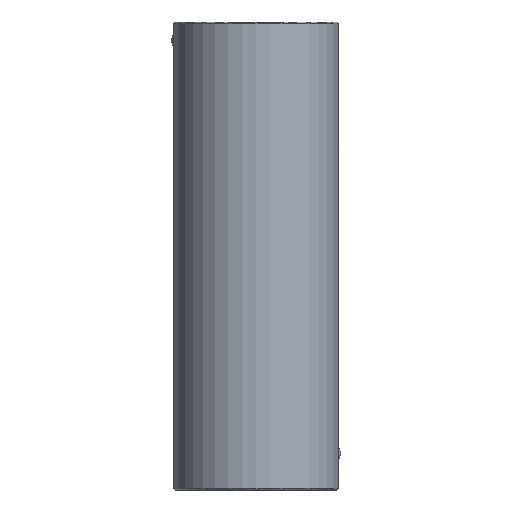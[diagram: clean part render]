
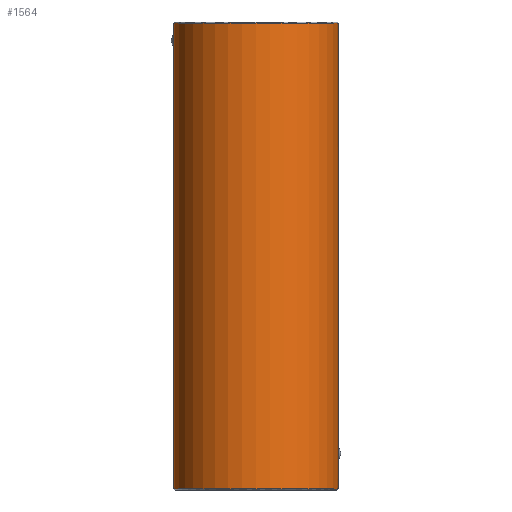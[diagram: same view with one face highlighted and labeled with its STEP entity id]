
A CAD part, front view. The second image highlights one B-rep face of the part: STEP entity #1564.
In plain terms, the highlighted cylindrical face has radius 18.5 mm (diameter 37 mm), a partial arc.
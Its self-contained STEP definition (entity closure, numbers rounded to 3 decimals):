
#1346=CARTESIAN_POINT('Vertex',(-18.5,0.,0.3)) ;
#1353=CARTESIAN_POINT('Vertex',(18.5,0.,0.3)) ;
#1356=CARTESIAN_POINT('Axis2P3D Location',(0.,0.,0.3)) ;
#1474=CARTESIAN_POINT('Axis2P3D Location',(0.,0.,105.)) ;
#1479=CARTESIAN_POINT('Line Origine',(18.5,0.,105.)) ;
#1483=CARTESIAN_POINT('Vertex',(18.5,0.,6.877)) ;
#1487=CARTESIAN_POINT('Control Point',(18.449,-1.379,8.201)) ;
#1488=CARTESIAN_POINT('Control Point',(18.449,-1.379,7.776)) ;
#1489=CARTESIAN_POINT('Control Point',(18.462,-1.201,7.352)) ;
#1490=CARTESIAN_POINT('Control Point',(18.488,-0.85,7.033)) ;
#1491=CARTESIAN_POINT('Control Point',(18.5,-0.425,6.877)) ;
#1492=CARTESIAN_POINT('Control Point',(18.5,0.,6.877)) ;
#1493=CARTESIAN_POINT('Vertex',(18.449,-1.379,8.201)) ;
#1497=CARTESIAN_POINT('Control Point',(18.5,0.,9.523)) ;
#1498=CARTESIAN_POINT('Control Point',(18.5,-0.425,9.523)) ;
#1499=CARTESIAN_POINT('Control Point',(18.488,-0.845,9.368)) ;
#1500=CARTESIAN_POINT('Control Point',(18.462,-1.201,9.052)) ;
#1501=CARTESIAN_POINT('Control Point',(18.449,-1.379,8.625)) ;
#1502=CARTESIAN_POINT('Control Point',(18.449,-1.379,8.201)) ;
#1503=CARTESIAN_POINT('Vertex',(18.5,0.,9.523)) ;
#1506=CARTESIAN_POINT('Line Origine',(18.5,0.,105.)) ;
#1510=CARTESIAN_POINT('Vertex',(18.5,0.,104.7)) ;
#1513=CARTESIAN_POINT('Axis2P3D Location',(0.,0.,104.7)) ;
#1517=CARTESIAN_POINT('Vertex',(-18.5,0.,104.7)) ;
#1520=CARTESIAN_POINT('Line Origine',(-18.5,0.,105.)) ;
#1524=CARTESIAN_POINT('Vertex',(-18.5,0.,102.223)) ;
#1528=CARTESIAN_POINT('Control Point',(-18.449,-1.379,100.899)) ;
#1529=CARTESIAN_POINT('Control Point',(-18.449,-1.379,101.324)) ;
#1530=CARTESIAN_POINT('Control Point',(-18.462,-1.201,101.748)) ;
#1531=CARTESIAN_POINT('Control Point',(-18.488,-0.85,102.067)) ;
#1532=CARTESIAN_POINT('Control Point',(-18.5,-0.425,102.223)) ;
#1533=CARTESIAN_POINT('Control Point',(-18.5,0.,102.223)) ;
#1534=CARTESIAN_POINT('Vertex',(-18.449,-1.379,100.899)) ;
#1538=CARTESIAN_POINT('Control Point',(-18.5,0.,99.577)) ;
#1539=CARTESIAN_POINT('Control Point',(-18.5,-0.425,99.577)) ;
#1540=CARTESIAN_POINT('Control Point',(-18.488,-0.845,99.732)) ;
#1541=CARTESIAN_POINT('Control Point',(-18.462,-1.201,100.048)) ;
#1542=CARTESIAN_POINT('Control Point',(-18.449,-1.379,100.475)) ;
#1543=CARTESIAN_POINT('Control Point',(-18.449,-1.379,100.899)) ;
#1544=CARTESIAN_POINT('Vertex',(-18.5,0.,99.577)) ;
#1547=CARTESIAN_POINT('Line Origine',(-18.5,0.,105.)) ;
#1357=DIRECTION('Axis2P3D Direction',(0.,-0.,1.)) ;
#1475=DIRECTION('Axis2P3D Direction',(0.,0.,-1.)) ;
#1476=DIRECTION('Axis2P3D XDirection',(1.,0.,0.)) ;
#1480=DIRECTION('Vector Direction',(0.,0.,-1.)) ;
#1507=DIRECTION('Vector Direction',(0.,0.,-1.)) ;
#1514=DIRECTION('Axis2P3D Direction',(0.,0.,-1.)) ;
#1521=DIRECTION('Vector Direction',(0.,0.,-1.)) ;
#1548=DIRECTION('Vector Direction',(0.,0.,-1.)) ;
#1358=AXIS2_PLACEMENT_3D('Circle Axis2P3D',#1356,#1357,$) ;
#1477=AXIS2_PLACEMENT_3D('Cylinder Axis2P3D',#1474,#1475,#1476) ;
#1515=AXIS2_PLACEMENT_3D('Circle Axis2P3D',#1513,#1514,$) ;
#1553=ORIENTED_EDGE('',*,*,#1485,.T.) ;
#1554=ORIENTED_EDGE('',*,*,#1495,.F.) ;
#1555=ORIENTED_EDGE('',*,*,#1505,.F.) ;
#1556=ORIENTED_EDGE('',*,*,#1512,.T.) ;
#1557=ORIENTED_EDGE('',*,*,#1519,.F.) ;
#1558=ORIENTED_EDGE('',*,*,#1526,.T.) ;
#1559=ORIENTED_EDGE('',*,*,#1536,.F.) ;
#1560=ORIENTED_EDGE('',*,*,#1546,.F.) ;
#1561=ORIENTED_EDGE('',*,*,#1551,.T.) ;
#1562=ORIENTED_EDGE('',*,*,#1360,.T.) ;
#1481=VECTOR('Line Direction',#1480,1.) ;
#1508=VECTOR('Line Direction',#1507,1.) ;
#1522=VECTOR('Line Direction',#1521,1.) ;
#1549=VECTOR('Line Direction',#1548,1.) ;
#1564=ADVANCED_FACE('730-30x105',(#1563),#1478,.T.) ;
#1486=B_SPLINE_CURVE_WITH_KNOTS('',5,(#1487,#1488,#1489,#1490,#1491,#1492),.UNSPECIFIED.,.F.,.U.,(6,6),(0.,3.013),.UNSPECIFIED.) ;
#1496=B_SPLINE_CURVE_WITH_KNOTS('',5,(#1497,#1498,#1499,#1500,#1501,#1502),.UNSPECIFIED.,.F.,.U.,(6,6),(0.,3.006),.UNSPECIFIED.) ;
#1527=B_SPLINE_CURVE_WITH_KNOTS('',5,(#1528,#1529,#1530,#1531,#1532,#1533),.UNSPECIFIED.,.F.,.U.,(6,6),(0.,3.013),.UNSPECIFIED.) ;
#1537=B_SPLINE_CURVE_WITH_KNOTS('',5,(#1538,#1539,#1540,#1541,#1542,#1543),.UNSPECIFIED.,.F.,.U.,(6,6),(0.,3.006),.UNSPECIFIED.) ;
#1359=CIRCLE('generated circle',#1358,18.5) ;
#1516=CIRCLE('generated circle',#1515,18.5) ;
#1478=CYLINDRICAL_SURFACE('generated cylinder',#1477,18.5) ;
#1360=EDGE_CURVE('',#1347,#1354,#1359,.T.) ;
#1485=EDGE_CURVE('',#1354,#1484,#1482,.F.) ;
#1495=EDGE_CURVE('',#1494,#1484,#1486,.T.) ;
#1505=EDGE_CURVE('',#1504,#1494,#1496,.T.) ;
#1512=EDGE_CURVE('',#1504,#1511,#1509,.F.) ;
#1519=EDGE_CURVE('',#1518,#1511,#1516,.F.) ;
#1526=EDGE_CURVE('',#1518,#1525,#1523,.T.) ;
#1536=EDGE_CURVE('',#1535,#1525,#1527,.T.) ;
#1546=EDGE_CURVE('',#1545,#1535,#1537,.T.) ;
#1551=EDGE_CURVE('',#1545,#1347,#1550,.T.) ;
#1552=EDGE_LOOP('',(#1553,#1554,#1555,#1556,#1557,#1558,#1559,#1560,#1561,#1562)) ;
#1563=FACE_OUTER_BOUND('',#1552,.T.) ;
#1482=LINE('Line',#1479,#1481) ;
#1509=LINE('Line',#1506,#1508) ;
#1523=LINE('Line',#1520,#1522) ;
#1550=LINE('Line',#1547,#1549) ;
#1347=VERTEX_POINT('',#1346) ;
#1354=VERTEX_POINT('',#1353) ;
#1484=VERTEX_POINT('',#1483) ;
#1494=VERTEX_POINT('',#1493) ;
#1504=VERTEX_POINT('',#1503) ;
#1511=VERTEX_POINT('',#1510) ;
#1518=VERTEX_POINT('',#1517) ;
#1525=VERTEX_POINT('',#1524) ;
#1535=VERTEX_POINT('',#1534) ;
#1545=VERTEX_POINT('',#1544) ;
